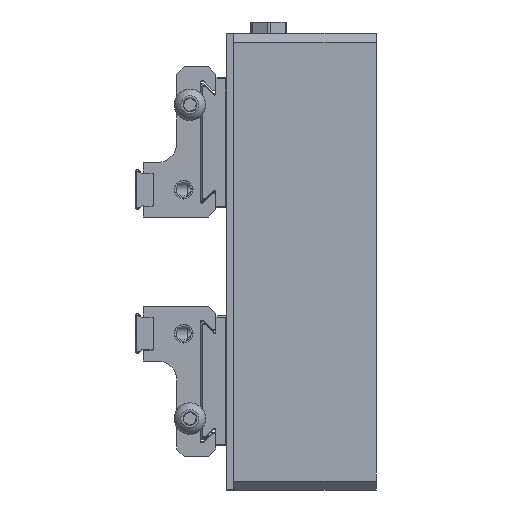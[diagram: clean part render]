
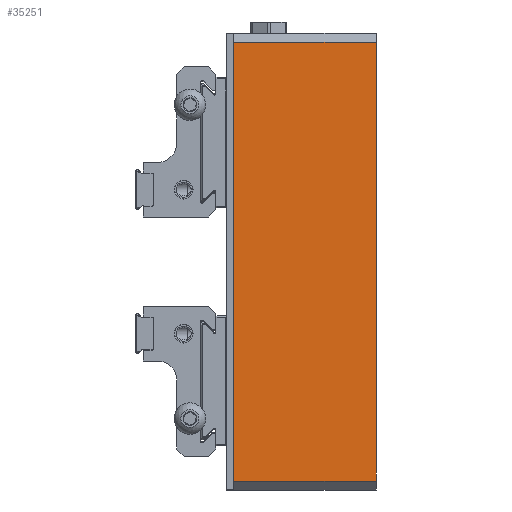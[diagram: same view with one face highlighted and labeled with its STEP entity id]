
A CAD part, left-side view. The second image highlights one B-rep face of the part: STEP entity #35251.
In plain terms, the highlighted planar face has unit normal (-1, 0, 0).
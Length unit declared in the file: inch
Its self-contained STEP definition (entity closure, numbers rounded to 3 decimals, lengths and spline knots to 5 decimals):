
#1041 = LINE ( 'NONE', #27267, #32801 ) ;
#2923 = EDGE_CURVE ( 'NONE', #17380, #25493, #1041, .T. ) ;
#5034 = LINE ( 'NONE', #25860, #17985 ) ;
#5780 = EDGE_CURVE ( 'NONE', #25493, #22441, #25591, .T. ) ;
#7695 = DIRECTION ( 'NONE',  ( 0., 0., -1. ) ) ;
#9687 = ORIENTED_EDGE ( 'NONE', *, *, #5780, .T. ) ;
#9831 = ORIENTED_EDGE ( 'NONE', *, *, #2923, .T. ) ;
#9918 = DIRECTION ( 'NONE',  ( 0., 1., 0. ) ) ;
#11110 = CARTESIAN_POINT ( 'NONE',  ( -2.475, 1.875, -2.88189 ) ) ;
#11849 = EDGE_CURVE ( 'NONE', #17380, #19897, #5034, .T. ) ;
#12079 = CARTESIAN_POINT ( 'NONE',  ( -2.475, 1.875, 2.88189 ) ) ;
#12091 = EDGE_CURVE ( 'NONE', #22441, #19897, #27169, .T. ) ;
#12921 = CARTESIAN_POINT ( 'NONE',  ( -2.475, 0., -2.88189 ) ) ;
#14301 = VECTOR ( 'NONE', #33157, 39.37008 ) ;
#16186 = DIRECTION ( 'NONE',  ( 1., 0., 0. ) ) ;
#16309 = VECTOR ( 'NONE', #37728, 39.37008 ) ;
#17380 = VERTEX_POINT ( 'NONE', #28573 ) ;
#17985 = VECTOR ( 'NONE', #23155, 39.37008 ) ;
#18203 = AXIS2_PLACEMENT_3D ( 'NONE', #31195, #16186, #7695 ) ;
#19897 = VERTEX_POINT ( 'NONE', #34139 ) ;
#22441 = VERTEX_POINT ( 'NONE', #11110 ) ;
#23155 = DIRECTION ( 'NONE',  ( 0., 0., -1. ) ) ;
#25493 = VERTEX_POINT ( 'NONE', #12079 ) ;
#25591 = LINE ( 'NONE', #28847, #16309 ) ;
#25860 = CARTESIAN_POINT ( 'NONE',  ( -2.475, 0., 3. ) ) ;
#27169 = LINE ( 'NONE', #12921, #14301 ) ;
#27267 = CARTESIAN_POINT ( 'NONE',  ( -2.475, 1.875, 2.88189 ) ) ;
#27360 = ORIENTED_EDGE ( 'NONE', *, *, #12091, .T. ) ;
#28573 = CARTESIAN_POINT ( 'NONE',  ( -2.475, 0., 2.88189 ) ) ;
#28847 = CARTESIAN_POINT ( 'NONE',  ( -2.475, 1.875, 3. ) ) ;
#31005 = PLANE ( 'NONE',  #18203 ) ;
#31195 = CARTESIAN_POINT ( 'NONE',  ( -2.475, 0., 3. ) ) ;
#31393 = EDGE_LOOP ( 'NONE', ( #34958, #9831, #9687, #27360 ) ) ;
#32801 = VECTOR ( 'NONE', #9918, 39.37008 ) ;
#33157 = DIRECTION ( 'NONE',  ( 0., -1., 0. ) ) ;
#33710 = FACE_OUTER_BOUND ( 'NONE', #31393, .T. ) ;
#34139 = CARTESIAN_POINT ( 'NONE',  ( -2.475, 0., -2.88189 ) ) ;
#34958 = ORIENTED_EDGE ( 'NONE', *, *, #11849, .F. ) ;
#35251 = ADVANCED_FACE ( 'NONE', ( #33710 ), #31005, .F. ) ;
#37728 = DIRECTION ( 'NONE',  ( 0., 0., -1. ) ) ;
